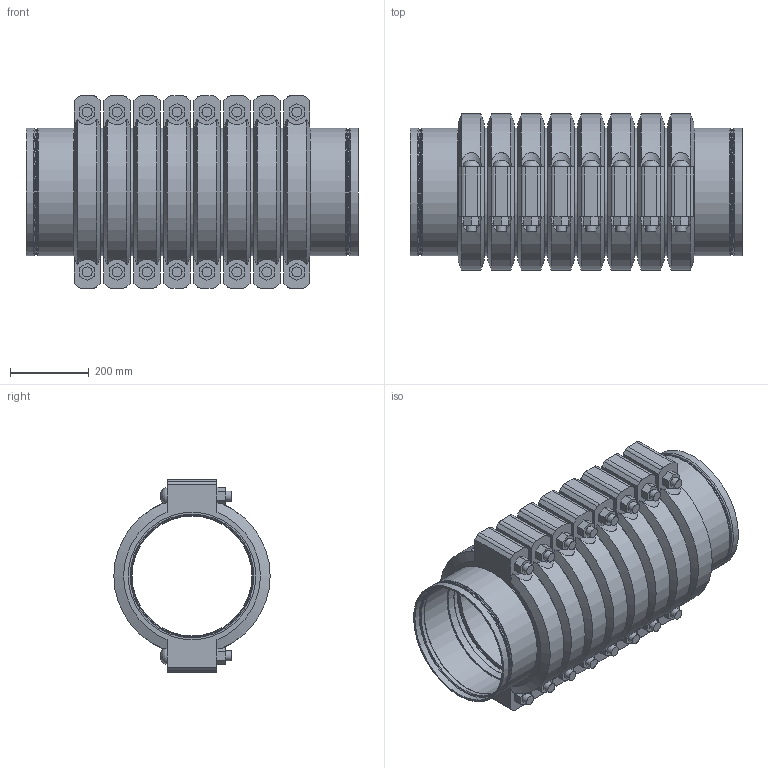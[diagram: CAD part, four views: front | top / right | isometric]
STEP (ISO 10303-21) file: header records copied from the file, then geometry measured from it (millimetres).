
FILE_DESCRIPTION(/* description */ ('VIC STRENGTHIN 100 EXPANSION JOINT 8 COUPLINGS EXPANDED STYLE E155 (ST1)','CAx-IF Rec.Pracs.---Representation and Presentation of Product Manufacturing Information (PMI)---4.0---2014-10-13'),/* implementation_level */ '2;1');
FILE_NAME(/* name */ 'C:\Users\Vjadhav\AppData\Roaming\Autodesk\ApplicationPlugins\Victaulic.Temp\A374\Victaulic_SS-StrengThin 100_Expansion Joint_Expanded_8 Couplings_Style E155 (ST1)_12 (300).stp',/* time_stamp */ '2021-07-23T19:34:54+05:00',/* author */ ('kkamble'),/* organization */ ('Victaulic'),/* preprocessor_version */ 'ST-DEVELOPER v17.2',/* originating_system */ 'Autodesk Inventor 2019',/* authorisation */ '');
FILE_SCHEMA (('AP242_MANAGED_MODEL_BASED_3D_ENGINEERING_MIM_LF { 1 0 10303 442 1 1 4 }'));
Length unit declared in the file: inch
Products named in the file (4): E155-12.0; E494G-12.0; Nipple-12.0; 077-12.0
Assembly tree (17 placements, depth 2):
  E155-12.0
    E494G-12.0  x2
    Nipple-12.0  x7
    077-12.0  x8
Bounding box: 843.79 x 397 x 488.95 mm (x, y, z)
Volume: 32930867.7 mm3; surface area: 4394331.2 mm2
Topology: 17 solids, 33 shells, 642 faces, 1600 edges, 1126 vertices
Faces by surface type: plane 344, cylinder 214, cone 36, torus 32, bspline 16
Full cylindrical faces by diameter (mm): 25.4 x32, 27.432 x16, 304.8 x7, 306.426 x2, 308.737 x2, 314.3 x6, 314.96 x8, 315.976 x2, 318.287 x16, 323.85 x43
Entity records: 4105 total; most frequent: CARTESIAN_POINT 836, DIRECTION 699, ORIENTED_EDGE 580, AXIS2_PLACEMENT_3D 302, EDGE_CURVE 290, VERTEX_POINT 209, CIRCLE 175, EDGE_LOOP 135
